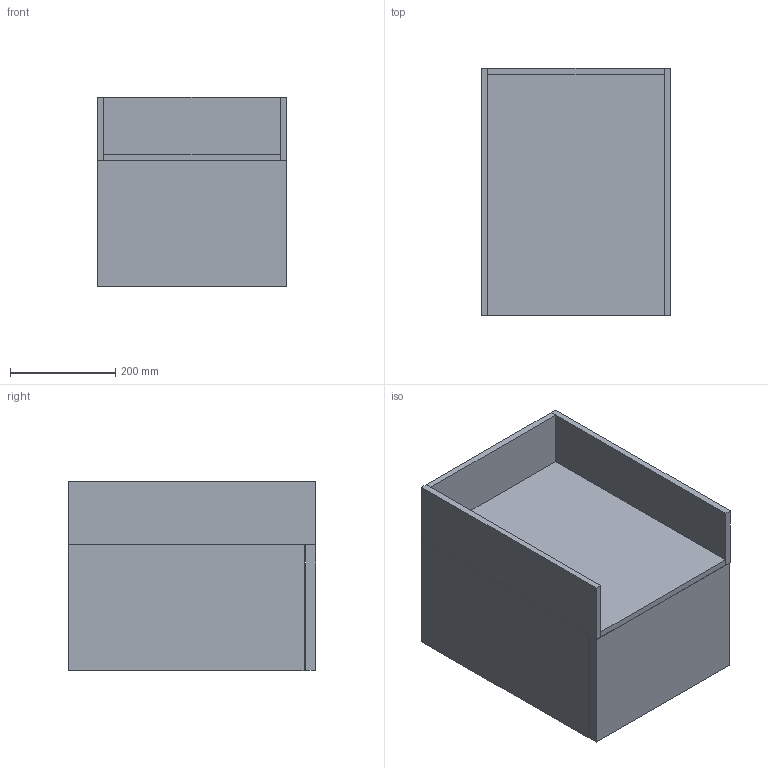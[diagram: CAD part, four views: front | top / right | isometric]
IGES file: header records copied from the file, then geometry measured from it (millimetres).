
Start section: Data from Parasolid IGES Translator 19.0.9, Copyright(c) 2006 Siemens PL M Software. All Rights Reserved.
Global section: file name: noorth-SI-H 36 D 47 W 36_8355.igs; native system: By Siemens PLM Incorporated; preprocessor: XPlus GENERIC/IGES 19.0.9; author: Noname; organization: Noname; date: 20200601.094054; units: metre
Bounding box: 360.01 x 470 x 360 mm (x, y, z)
Volume: 13667489.3 mm3; surface area: 2120474.1 mm2
Topology: 10 solids, 10 shells, 60 faces, 120 edges, 80 vertices
Faces by surface type: plane 60
